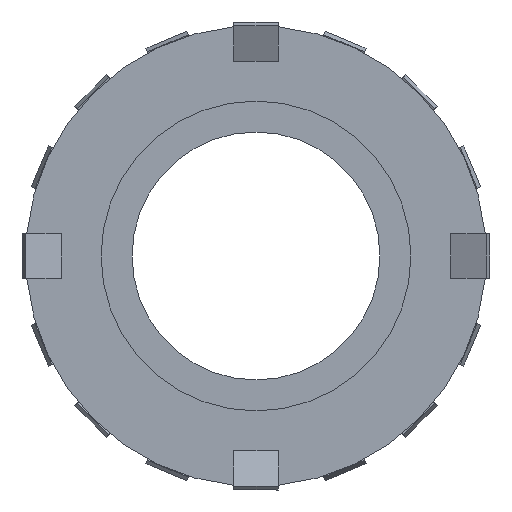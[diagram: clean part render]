
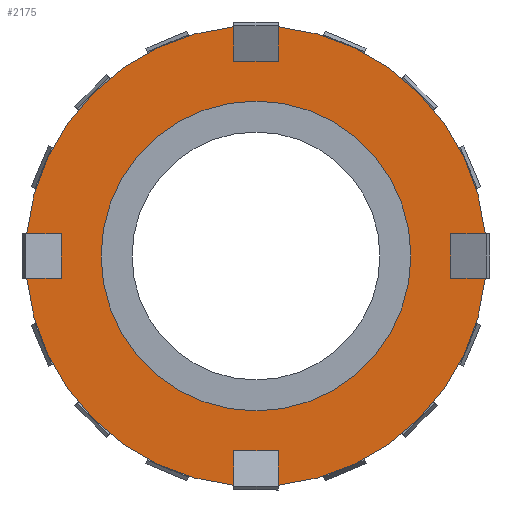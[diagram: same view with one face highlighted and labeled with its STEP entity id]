
A CAD part, left-side view. The second image highlights one B-rep face of the part: STEP entity #2175.
In plain terms, the highlighted planar face has unit normal (-1, 0, 0).
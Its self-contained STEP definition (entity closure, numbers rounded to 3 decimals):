
#1859 = EDGE_CURVE ( 'NONE', #2102, #1955, #6874, .T. ) ;
#1915 = EDGE_CURVE ( 'NONE', #1916, #2063, #5763, .T. ) ;
#1916 = VERTEX_POINT ( 'NONE', #5754 ) ;
#1936 = VERTEX_POINT ( 'NONE', #5681 ) ;
#1955 = VERTEX_POINT ( 'NONE', #5585 ) ;
#1957 = EDGE_CURVE ( 'NONE', #1955, #2102, #5717, .T. ) ;
#2063 = VERTEX_POINT ( 'NONE', #5893 ) ;
#2068 = EDGE_CURVE ( 'NONE', #1936, #2069, #5888, .T. ) ;
#2069 = VERTEX_POINT ( 'NONE', #5883 ) ;
#2088 = ORIENTED_EDGE ( 'NONE', *, *, #2068, .T. ) ;
#2102 = VERTEX_POINT ( 'NONE', #5820 ) ;
#2138 = EDGE_CURVE ( 'NONE', #2139, #2140, #5972, .T. ) ;
#2139 = VERTEX_POINT ( 'NONE', #5973 ) ;
#2140 = VERTEX_POINT ( 'NONE', #5968 ) ;
#2143 = ORIENTED_EDGE ( 'NONE', *, *, #2144, .F. ) ;
#2144 = EDGE_CURVE ( 'NONE', #1936, #2153, #5963, .T. ) ;
#2145 = EDGE_CURVE ( 'NONE', #1916, #2271, #5959, .T. ) ;
#2146 = ORIENTED_EDGE ( 'NONE', *, *, #1915, .T. ) ;
#2147 = ORIENTED_EDGE ( 'NONE', *, *, #2148, .F. ) ;
#2148 = EDGE_CURVE ( 'NONE', #2149, #2063, #5955, .T. ) ;
#2149 = VERTEX_POINT ( 'NONE', #5951 ) ;
#2150 = ORIENTED_EDGE ( 'NONE', *, *, #2151, .F. ) ;
#2151 = EDGE_CURVE ( 'NONE', #2153, #2149, #5950, .T. ) ;
#2153 = VERTEX_POINT ( 'NONE', #5946 ) ;
#2156 = ORIENTED_EDGE ( 'NONE', *, *, #2157, .F. ) ;
#2157 = EDGE_CURVE ( 'NONE', #2158, #2275, #5940, .T. ) ;
#2158 = VERTEX_POINT ( 'NONE', #5854 ) ;
#2159 = ORIENTED_EDGE ( 'NONE', *, *, #2160, .F. ) ;
#2160 = EDGE_CURVE ( 'NONE', #2172, #2158, #5853, .T. ) ;
#2161 = ORIENTED_EDGE ( 'NONE', *, *, #2171, .T. ) ;
#2162 = ORIENTED_EDGE ( 'NONE', *, *, #2163, .F. ) ;
#2163 = EDGE_CURVE ( 'NONE', #2262, #2169, #5848, .T. ) ;
#2169 = VERTEX_POINT ( 'NONE', #6206 ) ;
#2171 = EDGE_CURVE ( 'NONE', #2172, #2169, #6205, .T. ) ;
#2172 = VERTEX_POINT ( 'NONE', #6200 ) ;
#2175 = ADVANCED_FACE ( 'NONE', ( #6225, #6224 ), #6223, .F. ) ;
#2176 = EDGE_LOOP ( 'NONE', ( #2177, #2178 ) ) ;
#2177 = ORIENTED_EDGE ( 'NONE', *, *, #1859, .F. ) ;
#2178 = ORIENTED_EDGE ( 'NONE', *, *, #1957, .F. ) ;
#2179 = EDGE_LOOP ( 'NONE', ( #2259, #2263, #2265, #2266, #2269, #2272, #2146, #2147, #2150, #2143, #2088, #2273, #2156, #2159, #2161, #2162 ) ) ;
#2259 = ORIENTED_EDGE ( 'NONE', *, *, #2260, .F. ) ;
#2260 = EDGE_CURVE ( 'NONE', #2261, #2262, #6163, .T. ) ;
#2261 = VERTEX_POINT ( 'NONE', #6159 ) ;
#2262 = VERTEX_POINT ( 'NONE', #6158 ) ;
#2263 = ORIENTED_EDGE ( 'NONE', *, *, #2264, .F. ) ;
#2264 = EDGE_CURVE ( 'NONE', #2139, #2261, #6157, .T. ) ;
#2265 = ORIENTED_EDGE ( 'NONE', *, *, #2138, .T. ) ;
#2266 = ORIENTED_EDGE ( 'NONE', *, *, #2267, .F. ) ;
#2267 = EDGE_CURVE ( 'NONE', #2268, #2140, #6153, .T. ) ;
#2268 = VERTEX_POINT ( 'NONE', #6149 ) ;
#2269 = ORIENTED_EDGE ( 'NONE', *, *, #2270, .F. ) ;
#2270 = EDGE_CURVE ( 'NONE', #2271, #2268, #6148, .T. ) ;
#2271 = VERTEX_POINT ( 'NONE', #6144 ) ;
#2272 = ORIENTED_EDGE ( 'NONE', *, *, #2145, .F. ) ;
#2273 = ORIENTED_EDGE ( 'NONE', *, *, #2274, .F. ) ;
#2274 = EDGE_CURVE ( 'NONE', #2275, #2069, #6143, .T. ) ;
#2275 = VERTEX_POINT ( 'NONE', #6139 ) ;
#5585 = CARTESIAN_POINT ( 'NONE',  ( 4., 0., -17.5 ) ) ;
#5681 = CARTESIAN_POINT ( 'NONE',  ( 4., 2.5, 25.88 ) ) ;
#5713 = DIRECTION ( 'NONE',  ( 0., 0., 1. ) ) ;
#5714 = DIRECTION ( 'NONE',  ( -1., 0., 0. ) ) ;
#5715 = CARTESIAN_POINT ( 'NONE',  ( 4., 0., 0. ) ) ;
#5716 = AXIS2_PLACEMENT_3D ( 'NONE', #5715, #5714, #5713 ) ;
#5717 = CIRCLE ( 'NONE', #5716, 17.5 ) ;
#5754 = CARTESIAN_POINT ( 'NONE',  ( 4., -25.88, 2.5 ) ) ;
#5755 = DIRECTION ( 'NONE',  ( 0., 0., 1. ) ) ;
#5756 = DIRECTION ( 'NONE',  ( -1., 0., 0. ) ) ;
#5757 = CARTESIAN_POINT ( 'NONE',  ( 4., 0., 0. ) ) ;
#5758 = AXIS2_PLACEMENT_3D ( 'NONE', #5757, #5756, #5755 ) ;
#5763 = CIRCLE ( 'NONE', #5758, 26. ) ;
#5820 = CARTESIAN_POINT ( 'NONE',  ( 4., 0., 17.5 ) ) ;
#5845 = DIRECTION ( 'NONE',  ( 0., 0., -1. ) ) ;
#5846 = VECTOR ( 'NONE', #5845, 1000. ) ;
#5847 = CARTESIAN_POINT ( 'NONE',  ( 4., 2.5, -25.88 ) ) ;
#5848 = LINE ( 'NONE', #5847, #5846 ) ;
#5850 = DIRECTION ( 'NONE',  ( 0., -1., 0. ) ) ;
#5851 = VECTOR ( 'NONE', #5850, 1000. ) ;
#5852 = CARTESIAN_POINT ( 'NONE',  ( 4., 25.88, -2.5 ) ) ;
#5853 = LINE ( 'NONE', #5852, #5851 ) ;
#5854 = CARTESIAN_POINT ( 'NONE',  ( 4., 22., -2.5 ) ) ;
#5855 = DIRECTION ( 'NONE',  ( 0., 0., 1. ) ) ;
#5856 = VECTOR ( 'NONE', #5855, 1000. ) ;
#5857 = CARTESIAN_POINT ( 'NONE',  ( 4., 22., -2.5 ) ) ;
#5883 = CARTESIAN_POINT ( 'NONE',  ( 4., 25.88, 2.5 ) ) ;
#5884 = DIRECTION ( 'NONE',  ( 0., 0., 1. ) ) ;
#5885 = DIRECTION ( 'NONE',  ( -1., 0., 0. ) ) ;
#5886 = CARTESIAN_POINT ( 'NONE',  ( 4., 0., 0. ) ) ;
#5887 = AXIS2_PLACEMENT_3D ( 'NONE', #5886, #5885, #5884 ) ;
#5888 = CIRCLE ( 'NONE', #5887, 26. ) ;
#5893 = CARTESIAN_POINT ( 'NONE',  ( 4., -2.5, 25.88 ) ) ;
#5940 = LINE ( 'NONE', #5857, #5856 ) ;
#5946 = CARTESIAN_POINT ( 'NONE',  ( 4., 2.5, 22. ) ) ;
#5947 = DIRECTION ( 'NONE',  ( 0., -1., 0. ) ) ;
#5948 = VECTOR ( 'NONE', #5947, 1000. ) ;
#5949 = CARTESIAN_POINT ( 'NONE',  ( 4., 2.5, 22. ) ) ;
#5950 = LINE ( 'NONE', #5949, #5948 ) ;
#5951 = CARTESIAN_POINT ( 'NONE',  ( 4., -2.5, 22. ) ) ;
#5952 = DIRECTION ( 'NONE',  ( 0., 0., 1. ) ) ;
#5953 = VECTOR ( 'NONE', #5952, 1000. ) ;
#5954 = CARTESIAN_POINT ( 'NONE',  ( 4., -2.5, 25.88 ) ) ;
#5955 = LINE ( 'NONE', #5954, #5953 ) ;
#5956 = DIRECTION ( 'NONE',  ( 0., 1., 0. ) ) ;
#5957 = VECTOR ( 'NONE', #5956, 1000. ) ;
#5958 = CARTESIAN_POINT ( 'NONE',  ( 4., -25.88, 2.5 ) ) ;
#5959 = LINE ( 'NONE', #5958, #5957 ) ;
#5960 = DIRECTION ( 'NONE',  ( 0., 0., -1. ) ) ;
#5961 = VECTOR ( 'NONE', #5960, 1000. ) ;
#5962 = CARTESIAN_POINT ( 'NONE',  ( 4., 2.5, 25.88 ) ) ;
#5963 = LINE ( 'NONE', #5962, #5961 ) ;
#5968 = CARTESIAN_POINT ( 'NONE',  ( 4., -25.88, -2.5 ) ) ;
#5969 = DIRECTION ( 'NONE',  ( 0., 0., 1. ) ) ;
#5970 = DIRECTION ( 'NONE',  ( -1., 0., 0. ) ) ;
#5971 = AXIS2_PLACEMENT_3D ( 'NONE', #5979, #5970, #5969 ) ;
#5972 = CIRCLE ( 'NONE', #5971, 26. ) ;
#5973 = CARTESIAN_POINT ( 'NONE',  ( 4., -2.5, -25.88 ) ) ;
#5979 = CARTESIAN_POINT ( 'NONE',  ( 4., 0., 0. ) ) ;
#6139 = CARTESIAN_POINT ( 'NONE',  ( 4., 22., 2.5 ) ) ;
#6140 = DIRECTION ( 'NONE',  ( 0., 1., 0. ) ) ;
#6141 = VECTOR ( 'NONE', #6140, 1000. ) ;
#6142 = CARTESIAN_POINT ( 'NONE',  ( 4., 25.88, 2.5 ) ) ;
#6143 = LINE ( 'NONE', #6142, #6141 ) ;
#6144 = CARTESIAN_POINT ( 'NONE',  ( 4., -22., 2.5 ) ) ;
#6145 = DIRECTION ( 'NONE',  ( 0., 0., -1. ) ) ;
#6146 = VECTOR ( 'NONE', #6145, 1000. ) ;
#6147 = CARTESIAN_POINT ( 'NONE',  ( 4., -22., 2.5 ) ) ;
#6148 = LINE ( 'NONE', #6147, #6146 ) ;
#6149 = CARTESIAN_POINT ( 'NONE',  ( 4., -22., -2.5 ) ) ;
#6150 = DIRECTION ( 'NONE',  ( 0., -1., 0. ) ) ;
#6151 = VECTOR ( 'NONE', #6150, 1000. ) ;
#6152 = CARTESIAN_POINT ( 'NONE',  ( 4., -25.88, -2.5 ) ) ;
#6153 = LINE ( 'NONE', #6152, #6151 ) ;
#6154 = DIRECTION ( 'NONE',  ( 0., 0., 1. ) ) ;
#6155 = VECTOR ( 'NONE', #6154, 1000. ) ;
#6156 = CARTESIAN_POINT ( 'NONE',  ( 4., -2.5, -25.88 ) ) ;
#6157 = LINE ( 'NONE', #6156, #6155 ) ;
#6158 = CARTESIAN_POINT ( 'NONE',  ( 4., 2.5, -22. ) ) ;
#6159 = CARTESIAN_POINT ( 'NONE',  ( 4., -2.5, -22. ) ) ;
#6160 = DIRECTION ( 'NONE',  ( 0., 1., 0. ) ) ;
#6161 = VECTOR ( 'NONE', #6160, 1000. ) ;
#6162 = CARTESIAN_POINT ( 'NONE',  ( 4., -2.5, -22. ) ) ;
#6163 = LINE ( 'NONE', #6162, #6161 ) ;
#6200 = CARTESIAN_POINT ( 'NONE',  ( 4., 25.88, -2.5 ) ) ;
#6201 = DIRECTION ( 'NONE',  ( 0., 0., 1. ) ) ;
#6202 = DIRECTION ( 'NONE',  ( -1., 0., 0. ) ) ;
#6203 = CARTESIAN_POINT ( 'NONE',  ( 4., 0., 0. ) ) ;
#6204 = AXIS2_PLACEMENT_3D ( 'NONE', #6203, #6202, #6201 ) ;
#6205 = CIRCLE ( 'NONE', #6204, 26. ) ;
#6206 = CARTESIAN_POINT ( 'NONE',  ( 4., 2.5, -25.88 ) ) ;
#6219 = DIRECTION ( 'NONE',  ( 0., 0., -1. ) ) ;
#6220 = DIRECTION ( 'NONE',  ( 1., 0., 0. ) ) ;
#6221 = CARTESIAN_POINT ( 'NONE',  ( 4., 26., 0. ) ) ;
#6222 = AXIS2_PLACEMENT_3D ( 'NONE', #6221, #6220, #6219 ) ;
#6223 = PLANE ( 'NONE',  #6222 ) ;
#6224 = FACE_OUTER_BOUND ( 'NONE', #2179, .T. ) ;
#6225 = FACE_BOUND ( 'NONE', #2176, .T. ) ;
#6870 = DIRECTION ( 'NONE',  ( 0., 0., 1. ) ) ;
#6871 = DIRECTION ( 'NONE',  ( -1., 0., 0. ) ) ;
#6872 = CARTESIAN_POINT ( 'NONE',  ( 4., 0., 0. ) ) ;
#6873 = AXIS2_PLACEMENT_3D ( 'NONE', #6872, #6871, #6870 ) ;
#6874 = CIRCLE ( 'NONE', #6873, 17.5 ) ;
